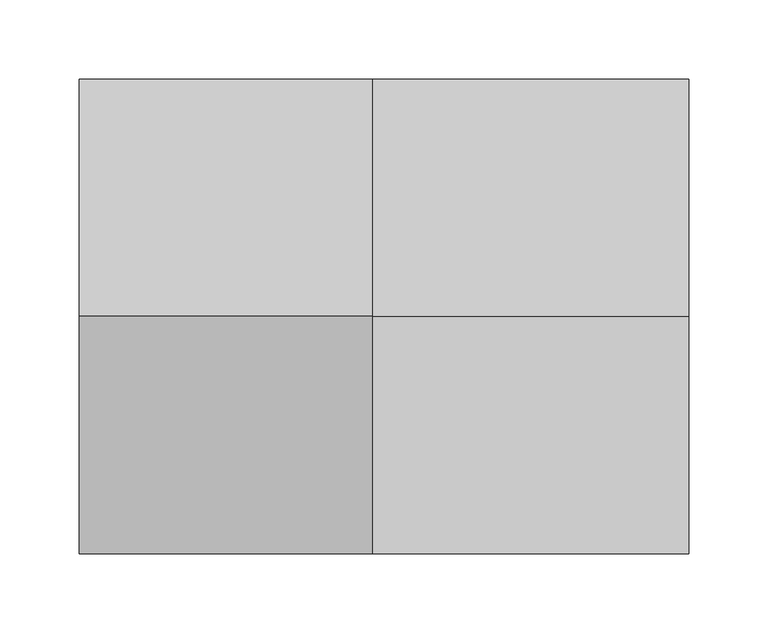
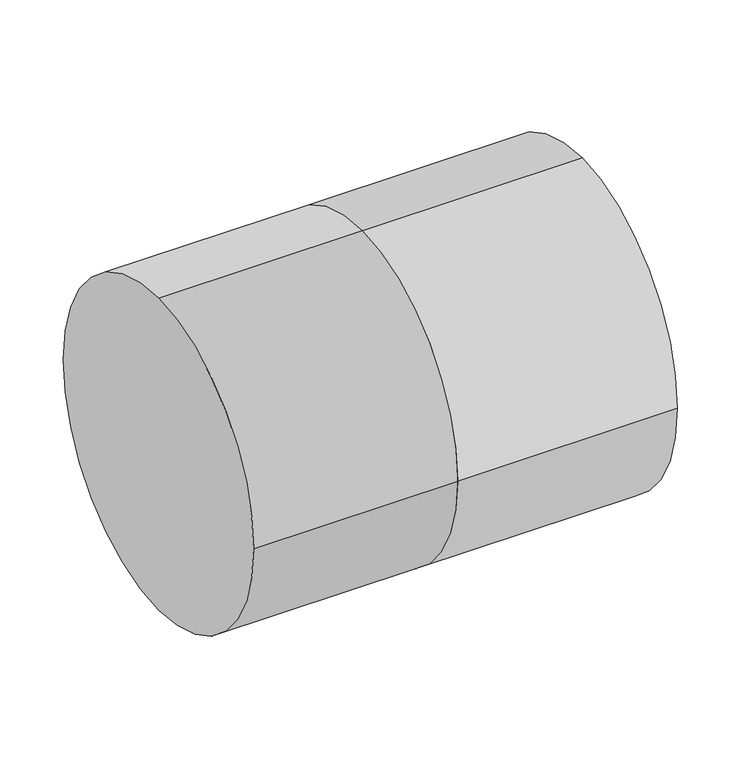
"""IFC4 building model written with IfcOpenShell, lengths in millimetres: duct fitting geometry, BL_ВрезкаВоздуховодов_Круглая : Ниппельное соединение."""

from ifc_helpers import new_model, si_unit, point, frame, origin, origin_2d, place, context, project, spatial, circle_curve, trimmed, segment, composite_curve, outline, extrude, source, transform, mapped, element, save


def duct_fitting_e0d7a8d8(model_context):
    return source(origin(), model_context, "Body", "SweptSolid", [
        extrude(outline(composite_curve([segment(trimmed(circle_curve(origin_2d(), 150.0), [point((0.0, 150.0))], [point((150.0, 0.0))], False, "CARTESIAN"), True, "CONTINUOUS"), segment(trimmed(circle_curve(origin_2d(), 150.0), [point((150.0, 0.0))], [point((0.0, -150.0))], False, "CARTESIAN"), True, "CONTINUOUS"), segment(trimmed(circle_curve(origin_2d(), 150.0), [point((0.0, -150.0))], [point((-150.0, 0.0))], False, "CARTESIAN"), True, "CONTINUOUS"), segment(trimmed(circle_curve(origin_2d(), 150.0), [point((-150.0, 0.0))], [point((0.0, 150.0))], False, "CARTESIAN"), True, "CONTINUOUS")], self_intersect=False)), frame((-185.4324309, 0.0, 0.0), z_axis=(1.0, 0.0, 0.0), x_axis=(0.0, 1.0, 0.0)), (0.0, 0.0, 1.0), 185.4324309),
        extrude(outline(composite_curve([segment(trimmed(circle_curve(origin_2d(), 150.0), [point((0.0, 150.0))], [point((150.0, 0.0))], False, "CARTESIAN"), True, "CONTINUOUS"), segment(trimmed(circle_curve(origin_2d(), 150.0), [point((150.0, 0.0))], [point((0.0, -150.0))], False, "CARTESIAN"), True, "CONTINUOUS"), segment(trimmed(circle_curve(origin_2d(), 150.0), [point((0.0, -150.0))], [point((-150.0, 0.0))], False, "CARTESIAN"), True, "CONTINUOUS"), segment(trimmed(circle_curve(origin_2d(), 150.0), [point((-150.0, 0.0))], [point((0.0, 150.0))], False, "CARTESIAN"), True, "CONTINUOUS")], self_intersect=False)), frame((0.0, 0.0, 0.0), z_axis=(1.0, 0.0, 0.0), x_axis=(0.0, 1.0, 0.0)), (0.0, 0.0, 1.0), 200.0),
    ])


if __name__ == "__main__":
    model = new_model("IFC4")
    model_context = context("Model", 3, world=origin())
    ifc_project = project(units=[si_unit("LENGTHUNIT", "METRE", prefix="MILLI")], contexts=[model_context])
    site = spatial("IfcSite", under=ifc_project)
    building = spatial("IfcBuilding", under=site)
    placement = place(None, origin())
    duct_fitting_shape = duct_fitting_e0d7a8d8(model_context)
    element("IfcDuctFitting", 1, ObjectType="BL_ВрезкаВоздуховодов_Круглая : Ниппельное соединение", at=placement, inside=building, context=model_context, shape_type="MappedRepresentation", body=[
        mapped(duct_fitting_shape, transform((0.0, 0.0, 0.0), x_axis=(1.0, 0.0, 0.0), y_axis=(0.0, 1.0, 0.0), z_axis=(0.0, 0.0, 1.0))),
    ])
    save(model, "model.ifc")
